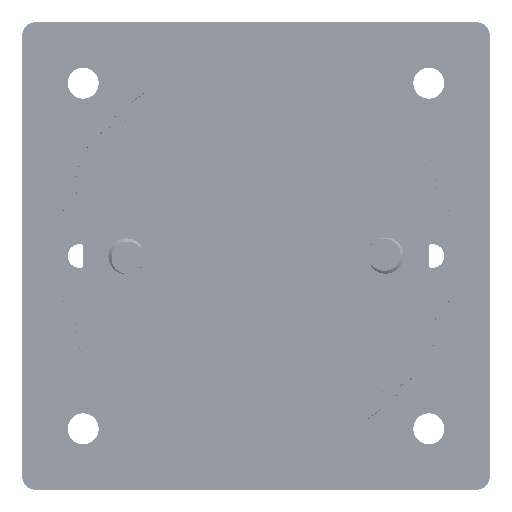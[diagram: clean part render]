
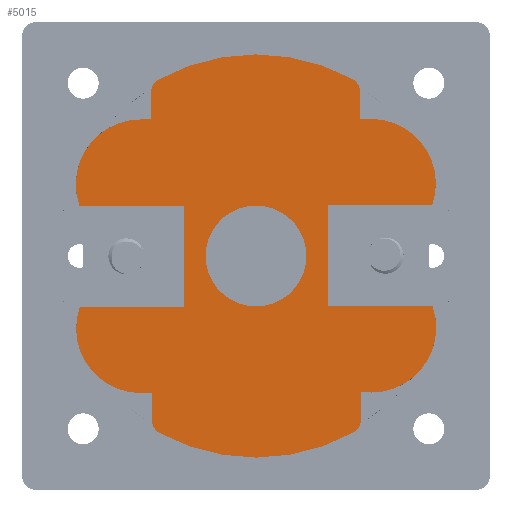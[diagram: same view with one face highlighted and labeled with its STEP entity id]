
A CAD part, front view. The second image highlights one B-rep face of the part: STEP entity #5015.
In plain terms, the highlighted planar face has unit normal (0, -1, 0).
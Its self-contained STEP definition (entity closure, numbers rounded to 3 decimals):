
#936=FACE_BOUND('',#10675,.T.);
#937=FACE_BOUND('',#10676,.T.);
#5015=ADVANCED_FACE('',(#936,#937),#6383,.F.);
#6383=PLANE('',#43044);
#10675=EDGE_LOOP('',(#23233,#23234,#23235,#23236,#23237,#23238,#23239,#23240,
#23241,#23242,#23243,#23244,#23245,#23246,#23247,#23248,#23249,#23250,#23251,
#23252,#23253,#23254,#23255,#23256,#23257));
#10676=EDGE_LOOP('',(#23258));
#10912=CIRCLE('',#39794,2.);
#10914=CIRCLE('',#39797,28.);
#10917=CIRCLE('',#39801,2.);
#10920=CIRCLE('',#39810,2.);
#10922=CIRCLE('',#39813,28.);
#10925=CIRCLE('',#39817,2.);
#12297=CIRCLE('',#42944,9.);
#12300=CIRCLE('',#42950,9.);
#12301=CIRCLE('',#42953,9.);
#12303=CIRCLE('',#42957,8.96);
#12305=CIRCLE('',#42961,9.);
#12325=CIRCLE('',#43034,7.);
#23233=ORIENTED_EDGE('',*,*,#33616,.F.);
#23234=ORIENTED_EDGE('',*,*,#33177,.T.);
#23235=ORIENTED_EDGE('',*,*,#33180,.T.);
#23236=ORIENTED_EDGE('',*,*,#28417,.T.);
#23237=ORIENTED_EDGE('',*,*,#28416,.T.);
#23238=ORIENTED_EDGE('',*,*,#28412,.T.);
#23239=ORIENTED_EDGE('',*,*,#28409,.T.);
#23240=ORIENTED_EDGE('',*,*,#28364,.T.);
#23241=ORIENTED_EDGE('',*,*,#33183,.T.);
#23242=ORIENTED_EDGE('',*,*,#33186,.T.);
#23243=ORIENTED_EDGE('',*,*,#33189,.T.);
#23244=ORIENTED_EDGE('',*,*,#33623,.F.);
#23245=ORIENTED_EDGE('',*,*,#33618,.F.);
#23246=ORIENTED_EDGE('',*,*,#33624,.F.);
#23247=ORIENTED_EDGE('',*,*,#33163,.T.);
#23248=ORIENTED_EDGE('',*,*,#33166,.T.);
#23249=ORIENTED_EDGE('',*,*,#28314,.T.);
#23250=ORIENTED_EDGE('',*,*,#28313,.T.);
#23251=ORIENTED_EDGE('',*,*,#28309,.T.);
#23252=ORIENTED_EDGE('',*,*,#28306,.T.);
#23253=ORIENTED_EDGE('',*,*,#28260,.T.);
#23254=ORIENTED_EDGE('',*,*,#33168,.T.);
#23255=ORIENTED_EDGE('',*,*,#33172,.T.);
#23256=ORIENTED_EDGE('',*,*,#33615,.F.);
#23257=ORIENTED_EDGE('',*,*,#33610,.F.);
#23258=ORIENTED_EDGE('',*,*,#33609,.F.);
#24315=VERTEX_POINT('',#53795);
#24316=VERTEX_POINT('',#53797);
#24357=VERTEX_POINT('',#53882);
#24360=VERTEX_POINT('',#53890);
#24362=VERTEX_POINT('',#53896);
#24365=VERTEX_POINT('',#53904);
#24407=VERTEX_POINT('',#54005);
#24408=VERTEX_POINT('',#54007);
#24449=VERTEX_POINT('',#54091);
#24452=VERTEX_POINT('',#54099);
#24454=VERTEX_POINT('',#54105);
#24457=VERTEX_POINT('',#54113);
#27575=VERTEX_POINT('',#160846);
#27576=VERTEX_POINT('',#160848);
#27578=VERTEX_POINT('',#160856);
#27581=VERTEX_POINT('',#160864);
#27584=VERTEX_POINT('',#160880);
#27585=VERTEX_POINT('',#160882);
#27588=VERTEX_POINT('',#160898);
#27590=VERTEX_POINT('',#160910);
#27592=VERTEX_POINT('',#160916);
#27880=VERTEX_POINT('',#189297);
#27881=VERTEX_POINT('',#189300);
#27882=VERTEX_POINT('',#189301);
#27885=VERTEX_POINT('',#189316);
#27886=VERTEX_POINT('',#189317);
#28260=EDGE_CURVE('',#24316,#24315,#34081,.T.);
#28306=EDGE_CURVE('',#24357,#24316,#10912,.T.);
#28309=EDGE_CURVE('',#24360,#24357,#10914,.T.);
#28313=EDGE_CURVE('',#24362,#24360,#10917,.T.);
#28314=EDGE_CURVE('',#24365,#24362,#34127,.T.);
#28364=EDGE_CURVE('',#24408,#24407,#34175,.T.);
#28409=EDGE_CURVE('',#24449,#24408,#10920,.T.);
#28412=EDGE_CURVE('',#24452,#24449,#10922,.T.);
#28416=EDGE_CURVE('',#24454,#24452,#10925,.T.);
#28417=EDGE_CURVE('',#24457,#24454,#34220,.T.);
#33163=EDGE_CURVE('',#27576,#27575,#12297,.T.);
#33166=EDGE_CURVE('',#27575,#24365,#36504,.T.);
#33168=EDGE_CURVE('',#24315,#27578,#36506,.T.);
#33172=EDGE_CURVE('',#27578,#27581,#12300,.T.);
#33177=EDGE_CURVE('',#27585,#27584,#12301,.T.);
#33180=EDGE_CURVE('',#27584,#24457,#36512,.T.);
#33183=EDGE_CURVE('',#24407,#27588,#12303,.T.);
#33186=EDGE_CURVE('',#27588,#27590,#36513,.T.);
#33189=EDGE_CURVE('',#27590,#27592,#12305,.T.);
#33609=EDGE_CURVE('',#27880,#27880,#12325,.T.);
#33610=EDGE_CURVE('',#27881,#27882,#36666,.T.);
#33615=EDGE_CURVE('',#27882,#27581,#36671,.T.);
#33616=EDGE_CURVE('',#27585,#27881,#36672,.T.);
#33618=EDGE_CURVE('',#27885,#27886,#36674,.T.);
#33623=EDGE_CURVE('',#27886,#27592,#36679,.T.);
#33624=EDGE_CURVE('',#27576,#27885,#36680,.T.);
#34081=LINE('',#53796,#36944);
#34127=LINE('',#53903,#36990);
#34175=LINE('',#54006,#37038);
#34220=LINE('',#54112,#37083);
#36504=LINE('',#160853,#39367);
#36506=LINE('',#160857,#39369);
#36512=LINE('',#160887,#39375);
#36513=LINE('',#160911,#39376);
#36666=LINE('',#189299,#39529);
#36671=LINE('',#189309,#39534);
#36672=LINE('',#189311,#39535);
#36674=LINE('',#189315,#39537);
#36679=LINE('',#189325,#39542);
#36680=LINE('',#189327,#39543);
#36944=VECTOR('',#43518,1.);
#36990=VECTOR('',#43588,1.);
#37038=VECTOR('',#43644,1.);
#37083=VECTOR('',#43713,1.);
#39367=VECTOR('',#52253,1.);
#39369=VECTOR('',#52257,1.);
#39375=VECTOR('',#52279,1.);
#39376=VECTOR('',#52286,1.);
#39529=VECTOR('',#52593,1.);
#39534=VECTOR('',#52600,1.);
#39535=VECTOR('',#52603,1.);
#39537=VECTOR('',#52609,1.);
#39542=VECTOR('',#52616,1.);
#39543=VECTOR('',#52619,1.);
#39794=AXIS2_PLACEMENT_3D('',#53887,#43568,#43569);
#39797=AXIS2_PLACEMENT_3D('',#53893,#43575,#43576);
#39801=AXIS2_PLACEMENT_3D('',#53901,#43584,#43585);
#39810=AXIS2_PLACEMENT_3D('',#54096,#43693,#43694);
#39813=AXIS2_PLACEMENT_3D('',#54102,#43700,#43701);
#39817=AXIS2_PLACEMENT_3D('',#54110,#43709,#43710);
#42944=AXIS2_PLACEMENT_3D('',#160847,#52246,#52247);
#42950=AXIS2_PLACEMENT_3D('',#160865,#52264,#52265);
#42953=AXIS2_PLACEMENT_3D('',#160881,#52272,#52273);
#42957=AXIS2_PLACEMENT_3D('',#160899,#52282,#52283);
#42961=AXIS2_PLACEMENT_3D('',#160917,#52292,#52293);
#43034=AXIS2_PLACEMENT_3D('',#189296,#52589,#52590);
#43044=AXIS2_PLACEMENT_3D('',#189331,#52625,#52626);
#43518=DIRECTION('',(0.003,0.,-1.));
#43568=DIRECTION('',(0.,-1.,0.));
#43569=DIRECTION('',(1.,0.,0.003));
#43575=DIRECTION('',(0.,-1.,0.));
#43576=DIRECTION('',(1.,0.,0.003));
#43584=DIRECTION('',(0.,-1.,0.));
#43585=DIRECTION('',(1.,0.,0.003));
#43588=DIRECTION('',(-0.003,0.,1.));
#43644=DIRECTION('',(-0.003,0.,1.));
#43693=DIRECTION('',(0.,-1.,0.));
#43694=DIRECTION('',(1.,0.,0.003));
#43700=DIRECTION('',(0.,-1.,0.));
#43701=DIRECTION('',(1.,0.,0.003));
#43709=DIRECTION('',(0.,-1.,0.));
#43710=DIRECTION('',(1.,0.,0.003));
#43713=DIRECTION('',(0.003,0.,-1.));
#52246=DIRECTION('',(0.,-1.,0.));
#52247=DIRECTION('',(1.,0.,0.003));
#52253=DIRECTION('',(-1.,0.,-0.003));
#52257=DIRECTION('',(-1.,0.,-0.003));
#52264=DIRECTION('',(0.,-1.,0.));
#52265=DIRECTION('',(-1.,0.,-0.003));
#52272=DIRECTION('',(0.,-1.,0.));
#52273=DIRECTION('',(-0.89,0.,0.456));
#52279=DIRECTION('',(1.,0.,0.003));
#52282=DIRECTION('',(0.,-1.,0.));
#52283=DIRECTION('',(0.,0.,-1.));
#52286=DIRECTION('',(1.,0.,0.003));
#52292=DIRECTION('',(0.,-1.,0.));
#52293=DIRECTION('',(0.,0.,-1.));
#52589=DIRECTION('',(0.,-1.,0.));
#52590=DIRECTION('',(-1.,0.,-0.003));
#52593=DIRECTION('',(-0.003,0.,1.));
#52600=DIRECTION('',(-1.,0.,-0.003));
#52603=DIRECTION('',(1.,0.,0.003));
#52609=DIRECTION('',(0.003,0.,-1.));
#52616=DIRECTION('',(1.,0.,0.003));
#52619=DIRECTION('',(-1.,0.,-0.003));
#52625=DIRECTION('',(0.,1.,0.));
#52626=DIRECTION('',(0.,0.,1.));
#53795=CARTESIAN_POINT('',(-14.549,-175.6,18.963));
#53796=CARTESIAN_POINT('',(-14.558,-175.6,22.761));
#53797=CARTESIAN_POINT('',(-14.558,-175.6,22.761));
#53882=CARTESIAN_POINT('',(-13.525,-175.6,24.517));
#53887=CARTESIAN_POINT('',(-12.558,-175.6,22.766));
#53890=CARTESIAN_POINT('',(13.398,-175.6,24.586));
#53893=CARTESIAN_POINT('',(0.,-175.6,0.));
#53896=CARTESIAN_POINT('',(14.441,-175.6,22.835));
#53901=CARTESIAN_POINT('',(12.441,-175.6,22.83));
#53903=CARTESIAN_POINT('',(14.451,-175.6,19.037));
#53904=CARTESIAN_POINT('',(14.451,-175.6,19.037));
#54005=CARTESIAN_POINT('',(14.548,-175.6,-18.837));
#54006=CARTESIAN_POINT('',(14.558,-175.6,-22.761));
#54007=CARTESIAN_POINT('',(14.558,-175.6,-22.761));
#54091=CARTESIAN_POINT('',(13.525,-175.6,-24.517));
#54096=CARTESIAN_POINT('',(12.558,-175.6,-22.766));
#54099=CARTESIAN_POINT('',(-13.398,-175.6,-24.586));
#54102=CARTESIAN_POINT('',(0.,-175.6,0.));
#54105=CARTESIAN_POINT('',(-14.441,-175.6,-22.835));
#54110=CARTESIAN_POINT('',(-12.441,-175.6,-22.83));
#54112=CARTESIAN_POINT('',(-14.451,-175.6,-19.037));
#54113=CARTESIAN_POINT('',(-14.451,-175.6,-19.037));
#160846=CARTESIAN_POINT('',(15.951,-175.6,19.041));
#160847=CARTESIAN_POINT('',(15.974,-175.6,10.041));
#160848=CARTESIAN_POINT('',(24.467,-175.6,7.063));
#160853=CARTESIAN_POINT('',(15.951,-175.6,19.041));
#160856=CARTESIAN_POINT('',(-16.049,-175.6,18.959));
#160857=CARTESIAN_POINT('',(-14.549,-175.6,18.963));
#160864=CARTESIAN_POINT('',(-24.503,-175.6,6.937));
#160865=CARTESIAN_POINT('',(-16.026,-175.6,9.959));
#160880=CARTESIAN_POINT('',(-15.951,-175.6,-19.041));
#160881=CARTESIAN_POINT('',(-15.974,-175.6,-10.041));
#160882=CARTESIAN_POINT('',(-24.468,-175.6,-7.063));
#160887=CARTESIAN_POINT('',(23.753,-175.6,-18.934));
#160898=CARTESIAN_POINT('',(15.978,-175.6,-18.959));
#160899=CARTESIAN_POINT('',(16.02,-175.6,-9.999));
#160910=CARTESIAN_POINT('',(16.119,-175.6,-18.958));
#160911=CARTESIAN_POINT('',(23.752,-175.6,-18.938));
#160916=CARTESIAN_POINT('',(24.503,-175.6,-6.937));
#160917=CARTESIAN_POINT('',(16.026,-175.6,-9.959));
#189296=CARTESIAN_POINT('',(0.,-175.6,0.));
#189297=CARTESIAN_POINT('',(-7.,-175.6,-0.018));
#189299=CARTESIAN_POINT('',(-9.982,-175.6,-7.026));
#189300=CARTESIAN_POINT('',(-9.982,-175.6,-7.026));
#189301=CARTESIAN_POINT('',(-10.018,-175.6,6.974));
#189309=CARTESIAN_POINT('',(-10.018,-175.6,6.974));
#189311=CARTESIAN_POINT('',(-34.164,-175.6,-7.088));
#189315=CARTESIAN_POINT('',(9.982,-175.6,7.026));
#189316=CARTESIAN_POINT('',(9.982,-175.6,7.026));
#189317=CARTESIAN_POINT('',(10.018,-175.6,-6.974));
#189325=CARTESIAN_POINT('',(10.018,-175.6,-6.974));
#189327=CARTESIAN_POINT('',(34.164,-175.6,7.088));
#189331=CARTESIAN_POINT('',(23.741,-175.6,-14.593));
